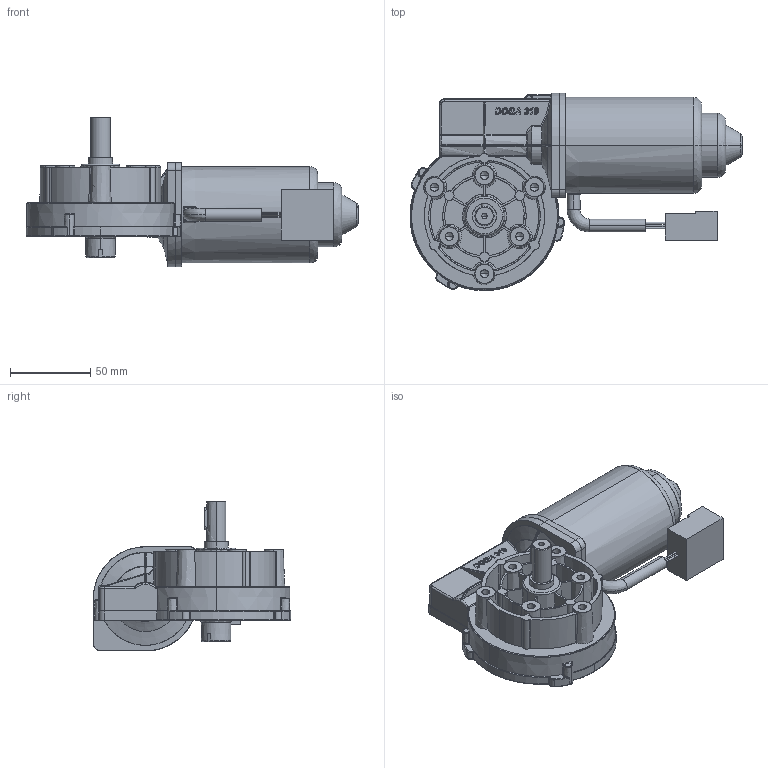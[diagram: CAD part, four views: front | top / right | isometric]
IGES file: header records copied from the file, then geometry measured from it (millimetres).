
Start section: SolidWorks IGES file using analytic representation for surfaces
Global section: file name: \\Uranus\R&D\plans\CATALOGUES\Topstock_Piece_IGES\319.IGS; native system: SolidWorks 2008; preprocessor: SolidWorks 2008; author: JUL; date: 090326.122828; units: millimetre
Bounding box: 207.05 x 123.12 x 93.5 mm (x, y, z)
Surface area: 87478.9 mm2 (no closed solid volume)
Topology: 0 solids, 0 shells, 717 faces, 8487 edges, 8452 vertices
Faces by surface type: bspline 441, revolution 276
